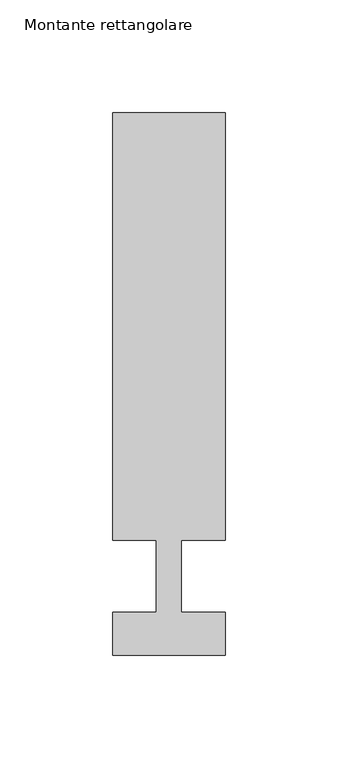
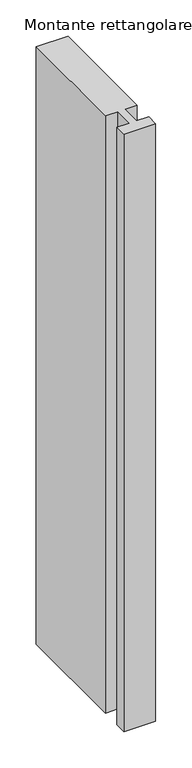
"""IFC4 building model written with IfcOpenShell, lengths in millimetres: member geometry, Montante rettangolare : Aluk_SL50_Traverso K746_vetro 32."""

from ifc_helpers import new_model, si_unit, frame, origin, place, context, project, spatial, polyline, outline, extrude, source, transform, mapped, element, save


def montante_rettangolare_42aabf74(model_context):
    return source(origin(), model_context, "Body", "SweptSolid", [
        extrude(outline(polyline([(-25.0, 206.0), (25.0, 206.0), (25.0, 16.0), (5.5, 16.0), (5.5, -16.005185), (25.0, -16.005185), (25.0, -35.0022918), (-25.0, -35.0022918), (-25.0, -16.005185), (-5.5, -16.005185), (-5.5, 16.0), (-25.0, 16.0), (-25.0, 206.0)])), frame((0.0, 0.0, -999.5992581), z_axis=(0.0, 0.0, 1.0), x_axis=(1.0, 0.0, 0.0)), (0.0, 0.0, 1.0), 999.5992581),
    ])


if __name__ == "__main__":
    model = new_model("IFC4")
    model_context = context("Model", 3, world=origin())
    ifc_project = project(units=[si_unit("LENGTHUNIT", "METRE", prefix="MILLI")], contexts=[model_context])
    site = spatial("IfcSite", under=ifc_project)
    building = spatial("IfcBuilding", under=site)
    placement = place(None, origin())
    montante_rettangolare_shape = montante_rettangolare_42aabf74(model_context)
    element("IfcMember", 1, ObjectType="Montante rettangolare : Aluk_SL50_Traverso K746_vetro 32", at=placement, inside=building, context=model_context, shape_type="MappedRepresentation", body=[
        mapped(montante_rettangolare_shape, transform((0.0, 0.0, 0.0), x_axis=(1.0, 0.0, 0.0), y_axis=(0.0, 1.0, 0.0), z_axis=(0.0, 0.0, 1.0))),
    ])
    save(model, "model.ifc")
